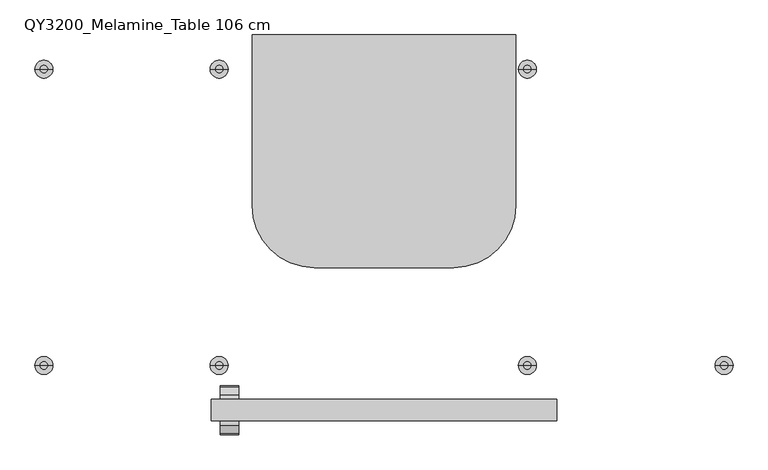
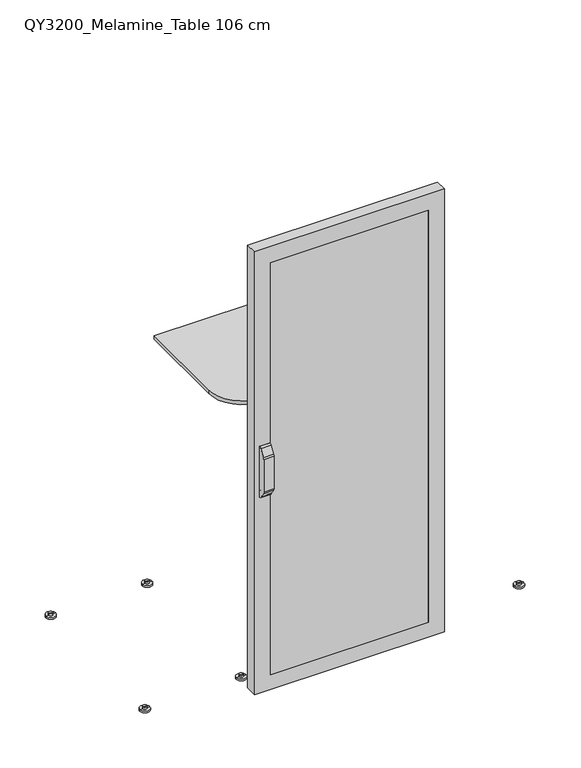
"""IFC4 building model written with IfcOpenShell, lengths in millimetres: furniture geometry, Qyos_200 : QY3200_Melamine_Table 106 cm."""

from ifc_helpers import new_model, si_unit, point, frame, frame_2d, origin, origin_with_axes, place, context, project, spatial, polyline, circle_curve, ellipse_curve, trimmed, segment, composite_curve, outline, extrude, source, transform, mapped, element, save
from ifc_brep_helpers import plane_surface, cylinder_surface, revolved_surface, advanced_brep


def qy3200_melamine_table_106_cm_6ddf6d1d(model_context):
    return source(origin(), model_context, "Body", "SolidModel", [
        advanced_brep(
        [(-374.0364764, -525.6314016, 980.9779398), (-374.0364764, -525.6314016, 985.9647191), (-374.0364764, -537.9469969, 991.7354618), (-374.0364764, -555.0438473, 1019.0961419), (-374.0364764, -557.6320377, 1028.7554001), (-374.0364764, -557.6320377, 1173.7554001), (-374.0364764, -553.2020658, 1196.5456299), (-374.0364764, -536.4262787, 1221.4167571), (-374.0364764, -525.6314016, 1224.0702851), (-374.0364764, -525.6314016, 1230.9669096), (-374.0364764, -537.162848, 1226.3079029), (-374.0364764, -557.7819627, 1194.5572505), (-374.0364764, -560.5, 1186.1919919), (-374.0364764, -560.5, 1025.2), (-374.0364764, -557.5610872, 1017.1254034), (-374.0364764, -537.1968679, 985.7672556), (-421.9843341, -525.6314016, 1230.9669096), (-421.9843341, -525.6314016, 980.9779398), (-421.9843341, -537.1968679, 985.7672556), (-421.9843341, -557.5610872, 1017.1254034), (-421.9843341, -560.5, 1025.2), (-421.9843341, -560.5, 1186.1919919), (-421.9843341, -557.7819627, 1194.5572505), (-421.9843341, -537.162848, 1226.3079029), (-419.3150587, -525.6314016, 1224.0702851), (-419.3150587, -525.6314016, 985.9647191), (-419.3150587, -537.9469969, 991.7354618), (-419.3150587, -536.4262787, 1221.4167571), (-419.3150587, -553.2020658, 1196.5456299), (-419.3150587, -557.6320377, 1173.7554001), (-419.3150587, -557.6320377, 1028.7554001), (-419.3150587, -555.0438473, 1019.0961419)],
        [
            (0, 1),
            (1, 2, circle_curve(frame((-374.0364764, -525.4805644, 1002.3136249), z_axis=(-1.0, 0.0, 0.0), x_axis=(0.0, -1.0, 0.0)), 16.3496016)),
            (2, 3, circle_curve(frame((-374.0364764, 1120.4570487, 2047.0433119), z_axis=(-1.0, 0.0, 0.0), x_axis=(0.0, -1.0, 0.0)), 1965.7005461)),
            (3, 4, circle_curve(frame((-374.0364764, -540.0644692, 1028.286235), z_axis=(-1.0, 0.0, 0.0), x_axis=(0.0, -1.0, 0.0)), 17.5738323)),
            (4, 5),
            (5, 6, circle_curve(frame((-374.0364764, -496.7942676, 1173.7554001), z_axis=(-1.0, 0.0, 0.0), x_axis=(0.0, -1.0, 0.0)), 60.8377701)),
            (6, 7, circle_curve(frame((-374.0364764, -812.3576761, 1389.4415655), z_axis=(1.0, 0.0, 0.0), x_axis=(0.0, -1.0, 0.0)), 323.0641922)),
            (7, 8, circle_curve(frame((-374.0364764, -525.6314016, 1200.7860796), z_axis=(-1.0, 0.0, 0.0), x_axis=(0.0, -1.0, 0.0)), 23.2842055)),
            (8, 9),
            (9, 10, circle_curve(frame((-374.0364764, -527.4087289, 1218.7657801), z_axis=(1.0, 0.0, 0.0), x_axis=(0.0, -1.0, 0.0)), 12.3299009)),
            (10, 11, circle_curve(frame((-374.0364764, 71.0762231, 808.7424006), z_axis=(1.0, 0.0, 0.0), x_axis=(0.0, -1.0, 0.0)), 737.777552)),
            (11, 12, circle_curve(frame((-374.0364764, -541.7589098, 1184.7268438), z_axis=(1.0, 0.0, 0.0), x_axis=(0.0, -1.0, 0.0)), 18.7982744)),
            (12, 13),
            (13, 14, circle_curve(frame((-374.0364764, -513.525418, 1037.7252129), z_axis=(1.0, 0.0, 0.0), x_axis=(0.0, -1.0, 0.0)), 48.615762)),
            (14, 15, circle_curve(frame((-374.0364764, -160.5394908, 1252.6628295), z_axis=(1.0, 0.0, 0.0), x_axis=(0.0, -1.0, 0.0)), 461.6319174)),
            (15, 0, circle_curve(frame((-374.0364764, -527.6091735, 992.560998), z_axis=(1.0, 0.0, 0.0), x_axis=(0.0, -1.0, 0.0)), 11.7506945)),
            (16, 17),
            (17, 18, circle_curve(frame((-421.9843341, -527.6091735, 992.560998), z_axis=(-1.0, 0.0, 0.0), x_axis=(0.0, -1.0, 0.0)), 11.7506945)),
            (18, 19, circle_curve(frame((-421.9843341, -160.5394908, 1252.6628295), z_axis=(-1.0, 0.0, 0.0), x_axis=(0.0, -1.0, 0.0)), 461.6319174)),
            (19, 20, circle_curve(frame((-421.9843341, -513.525418, 1037.7252129), z_axis=(-1.0, 0.0, 0.0), x_axis=(0.0, -1.0, 0.0)), 48.615762)),
            (20, 21),
            (21, 22, circle_curve(frame((-421.9843341, -541.7589098, 1184.7268438), z_axis=(-1.0, 0.0, 0.0), x_axis=(0.0, -1.0, 0.0)), 18.7982744)),
            (22, 23, circle_curve(frame((-421.9843341, 71.0762231, 808.7424006), z_axis=(-1.0, 0.0, 0.0), x_axis=(0.0, -1.0, 0.0)), 737.777552)),
            (23, 16, circle_curve(frame((-421.9843341, -527.4087289, 1218.7657801), z_axis=(-1.0, 0.0, 0.0), x_axis=(0.0, -1.0, 0.0)), 12.3299009)),
            (16, 9),
            (8, 24),
            (24, 25),
            (25, 1),
            (0, 17),
            (15, 18),
            (14, 19),
            (13, 20),
            (12, 21),
            (11, 22),
            (10, 23),
            (26, 25, circle_curve(frame((-419.3150587, -525.4805644, 1002.3136249), z_axis=(1.0, 0.0, 0.0), x_axis=(0.0, -1.0, 0.0)), 16.3496016)),
            (24, 27, circle_curve(frame((-419.3150587, -525.6314016, 1200.7860796), z_axis=(1.0, 0.0, 0.0), x_axis=(0.0, -1.0, 0.0)), 23.2842055)),
            (27, 28, circle_curve(frame((-419.3150587, -812.3576761, 1389.4415655), z_axis=(-1.0, 0.0, 0.0), x_axis=(0.0, -1.0, 0.0)), 323.0641922)),
            (28, 29, circle_curve(frame((-419.3150587, -496.7942676, 1173.7554001), z_axis=(1.0, 0.0, 0.0), x_axis=(0.0, -1.0, 0.0)), 60.8377701)),
            (29, 30),
            (30, 31, circle_curve(frame((-419.3150587, -540.0644692, 1028.286235), z_axis=(1.0, 0.0, 0.0), x_axis=(0.0, -1.0, 0.0)), 17.5738323)),
            (31, 26, circle_curve(frame((-419.3150587, 1120.4570487, 2047.0433119), z_axis=(1.0, 0.0, 0.0), x_axis=(0.0, -1.0, 0.0)), 1965.7005461)),
            (26, 2),
            (31, 3),
            (30, 4),
            (29, 5),
            (28, 6),
            (27, 7),
        ],
        [
            plane_surface(frame((-374.0364764, -525.6314016, 980.9779398), z_axis=(1.0, 0.0, 0.0), x_axis=(0.0, 0.0, -1.0))),
            plane_surface(frame((-421.9843341, -525.6314016, 980.9779398), z_axis=(-1.0, 0.0, 0.0), x_axis=(0.0, 0.0, 1.0))),
            plane_surface(frame((-374.0364764, -525.6314016, 1230.9669096), z_axis=(0.0, 1.0, 0.0), x_axis=(-1.0, 0.0, 0.0))),
            cylinder_surface(frame((-421.9843341, -527.6091735, 992.560998), z_axis=(1.0, 0.0, 0.0), x_axis=(0.0, -1.0, 0.0)), 11.7506945),
            cylinder_surface(frame((-421.9843341, -160.5394908, 1252.6628295), z_axis=(1.0, 0.0, 0.0), x_axis=(0.0, -1.0, 0.0)), 461.6319174),
            cylinder_surface(frame((-421.9843341, -513.525418, 1037.7252129), z_axis=(1.0, 0.0, 0.0), x_axis=(0.0, -1.0, 0.0)), 48.615762),
            plane_surface(frame((-374.0364764, -560.5, 1025.2), z_axis=(0.0, -1.0, 0.0), x_axis=(-1.0, 0.0, 0.0))),
            cylinder_surface(frame((-421.9843341, -541.7589098, 1184.7268438), z_axis=(1.0, 0.0, 0.0), x_axis=(0.0, -1.0, 0.0)), 18.7982744),
            cylinder_surface(frame((-421.9843341, 71.0762231, 808.7424006), z_axis=(1.0, 0.0, 0.0), x_axis=(0.0, -1.0, 0.0)), 737.777552),
            cylinder_surface(frame((-421.9843341, -527.4087289, 1218.7657801), z_axis=(1.0, 0.0, 0.0), x_axis=(0.0, -1.0, 0.0)), 12.3299009),
            plane_surface(frame((-419.3150587, -511.7185794, 1224.0702851), z_axis=(1.0, 0.0, 0.0), x_axis=(0.0, 0.0, 1.0))),
            revolved_surface(polyline([(-374.0364764, -541.8301660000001, 1002.3136249), (-419.3150587, -541.8301660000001, 1002.3136249)]), (-419.3150587, -525.4805644, 1002.3136249), (1.0, 0.0, 0.0)),
            revolved_surface(polyline([(-374.0364764, -845.2434974, 2047.0433119), (-419.3150587, -845.2434974, 2047.0433119)]), (-419.3150587, 1120.4570487, 2047.0433119), (1.0, 0.0, 0.0)),
            revolved_surface(polyline([(-374.0364764, -557.6383015, 1028.286235), (-419.3150587, -557.6383015, 1028.286235)]), (-419.3150587, -540.0644692, 1028.286235), (1.0, 0.0, 0.0)),
            plane_surface(frame((-366.8304474, -557.6320377, 1028.7554001), z_axis=(0.0, 1.0, 0.0), x_axis=(-1.0, 0.0, 0.0))),
            revolved_surface(polyline([(-374.0364764, -557.6320377, 1173.7554001), (-419.3150587, -557.6320377, 1173.7554001)]), (-419.3150587, -496.7942676, 1173.7554001), (1.0, 0.0, 0.0)),
            cylinder_surface(frame((-419.3150587, -812.3576761, 1389.4415655), z_axis=(-1.0, 0.0, 0.0), x_axis=(0.0, -1.0, 0.0)), 323.0641922),
            revolved_surface(polyline([(-374.0364764, -548.9156071, 1200.7860796), (-419.3150587, -548.9156071, 1200.7860796)]), (-419.3150587, -525.6314016, 1200.7860796), (1.0, 0.0, 0.0)),
        ],
        [
            (0, [[1, 2, 3, 4, 5, 6, 7, 8, 9, 10, 11, 12, 13, 14, 15, 16]]),
            (1, [[17, 18, 19, 20, 21, 22, 23, 24]]),
            (2, [[25, -9, 26, 27, 28, -1, 29, -17]]),
            (3, [[30, -18, -29, -16]]),
            (4, [[31, -19, -30, -15]]),
            (5, [[32, -20, -31, -14]]),
            (6, [[33, -21, -32, -13]]),
            (7, [[34, -22, -33, -12]]),
            (8, [[35, -23, -34, -11]]),
            (9, [[-25, -24, -35, -10]]),
            (10, [[36, -27, 37, 38, 39, 40, 41, 42]]),
            (11, [[43, -2, -28, -36]]),
            (12, [[44, -3, -43, -42]]),
            (13, [[45, -4, -44, -41]]),
            (14, [[46, -5, -45, -40]]),
            (15, [[47, -6, -46, -39]]),
            (16, [[48, -7, -47, -38]]),
            (17, [[-26, -8, -48, -37]]),
        ],
    ),
        extrude(outline(composite_curve([segment(polyline([(1230.9669096, -377.0367526), (1230.9669096, -417.0000396)]), True, "CONTINUOUS"), segment(trimmed(circle_curve(frame_2d((1225.973762, -417.0000396)), 4.9931477), [point((1230.9669096, -417.0000396))], [point((1225.973762, -421.9931872))], False, "CARTESIAN"), True, "CONTINUOUS"), segment(polyline([(1225.973762, -421.9931872), (985.9710874, -421.9931872)]), True, "CONTINUOUS"), segment(trimmed(circle_curve(frame_2d((985.9710874, -417.0000396)), 4.9931477), [point((985.9710874, -421.9931872))], [point((980.9779398, -417.0000396))], False, "CARTESIAN"), True, "CONTINUOUS"), segment(polyline([(980.9779398, -417.0000396), (980.9779398, -377.0345582)]), True, "CONTINUOUS"), segment(trimmed(circle_curve(frame_2d((983.9760215, -377.0345582)), 2.9980817), [point((980.9779398, -377.0345582))], [point((983.9760215, -374.0364764))], False, "CARTESIAN"), True, "CONTINUOUS"), segment(polyline([(983.9760215, -374.0364764), (985.9777208, -374.0364764)]), True, "CONTINUOUS"), segment(trimmed(circle_curve(frame_2d((985.9777208, -376.2870695)), 2.2505931), [point((985.9777208, -374.0364764))], [point((988.1941223, -375.8962581))], False, "CARTESIAN"), True, "CONTINUOUS"), segment(trimmed(circle_curve(frame_2d((1002.686839, -375.0916302)), 14.5150358), [point((988.1941223, -375.8962581))], [point((999.6402401, -389.2833354))], True, "CARTESIAN"), True, "CONTINUOUS"), segment(trimmed(circle_curve(frame_2d((999.3564071, -397.3026122)), 8.0242982), [point((999.6402401, -389.2833354))], [point((1007.3803501, -397.3781043))], False, "CARTESIAN"), True, "CONTINUOUS"), segment(trimmed(circle_curve(frame_2d((984.8527266, -400.9146638)), 22.803532), [point((1007.3803501, -397.3781043))], [point((1007.3098217, -404.8744555))], False, "CARTESIAN"), True, "CONTINUOUS"), segment(trimmed(circle_curve(frame_2d((1018.7344643, -406.8889283)), 11.600886), [point((1007.3098217, -404.8744555))], [point((1018.7344643, -418.4898143))], True, "CARTESIAN"), True, "CONTINUOUS"), segment(polyline([(1018.7344643, -418.4898143), (1193.2103851, -418.4898143)]), True, "CONTINUOUS"), segment(trimmed(circle_curve(frame_2d((1193.2103851, -406.5228547)), 11.9669596), [point((1193.2103851, -418.4898143))], [point((1205.1773447, -406.5228547))], True, "CARTESIAN"), True, "CONTINUOUS"), segment(polyline([(1205.1773447, -406.5228547), (1205.1773447, -397.9909498)]), True, "CONTINUOUS"), segment(trimmed(circle_curve(frame_2d((1213.8757406, -397.9909498)), 8.6983958), [point((1205.1773447, -397.9909498))], [point((1212.36528, -389.4247021))], False, "CARTESIAN"), True, "CONTINUOUS"), segment(trimmed(circle_curve(frame_2d((1209.9037954, -375.4649293)), 14.1751248), [point((1212.36528, -389.4247021))], [point((1224.0702851, -375.959634))], True, "CARTESIAN"), True, "CONTINUOUS"), segment(trimmed(circle_curve(frame_2d((1225.9934427, -375.959634)), 1.9231576), [point((1224.0702851, -375.959634))], [point((1225.9934427, -374.0364764))], False, "CARTESIAN"), True, "CONTINUOUS"), segment(polyline([(1225.9934427, -374.0364764), (1227.9666334, -374.0364764)]), True, "CONTINUOUS"), segment(trimmed(circle_curve(frame_2d((1227.9666334, -377.0367526)), 3.0002762), [point((1227.9666334, -374.0364764))], [point((1230.9669096, -377.0367526))], False, "CARTESIAN"), True, "CONTINUOUS")], self_intersect=False)), frame((0.0, -525.6314016, 0.0), z_axis=(0.0, 1.0, 0.0), x_axis=(0.0, 0.0, 1.0)), (0.0, 0.0, 1.0), 0.6314016),
        advanced_brep(
        [(-374.0364764, -469.3642803, 980.9779398), (-374.0364764, -457.798814, 985.7672556), (-374.0364764, -437.4345947, 1017.1254034), (-374.0364764, -434.4956819, 1025.2), (-374.0364764, -434.4956819, 1186.1919919), (-374.0364764, -437.2137192, 1194.5572505), (-374.0364764, -457.8328339, 1226.3079029), (-374.0364764, -469.3642803, 1230.9669096), (-374.0364764, -469.3642803, 1224.0702851), (-374.0364764, -458.5694032, 1221.4167571), (-374.0364764, -441.7936161, 1196.5456299), (-374.0364764, -437.3636441, 1173.7554001), (-374.0364764, -437.3636441, 1028.7554001), (-374.0364764, -439.9518346, 1019.0961419), (-374.0364764, -457.048685, 991.7354618), (-374.0364764, -469.3642803, 985.9647191), (-421.9843341, -469.3642803, 1230.9669096), (-421.9843341, -457.8328339, 1226.3079029), (-421.9843341, -437.2137192, 1194.5572505), (-421.9843341, -434.4956819, 1186.1919919), (-421.9843341, -434.4956819, 1025.2), (-421.9843341, -437.4345947, 1017.1254034), (-421.9843341, -457.798814, 985.7672556), (-421.9843341, -469.3642803, 980.9779398), (-419.3150587, -469.3642803, 985.9647191), (-419.3150587, -469.3642803, 1224.0702851), (-419.3150587, -457.048685, 991.7354618), (-419.3150587, -439.9518346, 1019.0961419), (-419.3150587, -437.3636441, 1028.7554001), (-419.3150587, -437.3636441, 1173.7554001), (-419.3150587, -441.7936161, 1196.5456299), (-419.3150587, -458.5694032, 1221.4167571)],
        [
            (0, 1, circle_curve(frame((-374.0364764, -467.3865084, 992.560998), z_axis=(1.0, 0.0, 0.0), x_axis=(0.0, 1.0, 0.0)), 11.7506945)),
            (1, 2, circle_curve(frame((-374.0364764, -834.4561911, 1252.6628295), z_axis=(1.0, 0.0, 0.0), x_axis=(0.0, 1.0, 0.0)), 461.6319174)),
            (2, 3, circle_curve(frame((-374.0364764, -481.4702639, 1037.7252129), z_axis=(1.0, 0.0, 0.0), x_axis=(0.0, 1.0, 0.0)), 48.615762)),
            (3, 4),
            (4, 5, circle_curve(frame((-374.0364764, -453.236772, 1184.7268438), z_axis=(1.0, 0.0, 0.0), x_axis=(0.0, 1.0, 0.0)), 18.7982744)),
            (5, 6, circle_curve(frame((-374.0364764, -1066.071905, 808.7424006), z_axis=(1.0, 0.0, 0.0), x_axis=(0.0, 1.0, 0.0)), 737.777552)),
            (6, 7, circle_curve(frame((-374.0364764, -467.586953, 1218.7657801), z_axis=(1.0, 0.0, 0.0), x_axis=(0.0, 1.0, 0.0)), 12.3299009)),
            (7, 8),
            (8, 9, circle_curve(frame((-374.0364764, -469.3642803, 1200.7860796), z_axis=(-1.0, 0.0, 0.0), x_axis=(0.0, 1.0, 0.0)), 23.2842055)),
            (9, 10, circle_curve(frame((-374.0364764, -182.6380058, 1389.4415655), z_axis=(1.0, 0.0, 0.0), x_axis=(0.0, 1.0, 0.0)), 323.0641922)),
            (10, 11, circle_curve(frame((-374.0364764, -498.2014142, 1173.7554001), z_axis=(-1.0, 0.0, 0.0), x_axis=(0.0, 1.0, 0.0)), 60.8377701)),
            (11, 12),
            (12, 13, circle_curve(frame((-374.0364764, -454.9312127, 1028.286235), z_axis=(-1.0, 0.0, 0.0), x_axis=(0.0, 1.0, 0.0)), 17.5738323)),
            (13, 14, circle_curve(frame((-374.0364764, -2115.4527306, 2047.0433119), z_axis=(-1.0, 0.0, 0.0), x_axis=(0.0, 1.0, 0.0)), 1965.7005461)),
            (14, 15, circle_curve(frame((-374.0364764, -469.5151175, 1002.3136249), z_axis=(-1.0, 0.0, 0.0), x_axis=(0.0, 1.0, 0.0)), 16.3496016)),
            (15, 0),
            (16, 17, circle_curve(frame((-421.9843341, -467.586953, 1218.7657801), z_axis=(-1.0, 0.0, 0.0), x_axis=(0.0, 1.0, 0.0)), 12.3299009)),
            (17, 18, circle_curve(frame((-421.9843341, -1066.071905, 808.7424006), z_axis=(-1.0, 0.0, 0.0), x_axis=(0.0, 1.0, 0.0)), 737.777552)),
            (18, 19, circle_curve(frame((-421.9843341, -453.236772, 1184.7268438), z_axis=(-1.0, 0.0, 0.0), x_axis=(0.0, 1.0, 0.0)), 18.7982744)),
            (19, 20),
            (20, 21, circle_curve(frame((-421.9843341, -481.4702639, 1037.7252129), z_axis=(-1.0, 0.0, 0.0), x_axis=(0.0, 1.0, 0.0)), 48.615762)),
            (21, 22, circle_curve(frame((-421.9843341, -834.4561911, 1252.6628295), z_axis=(-1.0, 0.0, 0.0), x_axis=(0.0, 1.0, 0.0)), 461.6319174)),
            (22, 23, circle_curve(frame((-421.9843341, -467.3865084, 992.560998), z_axis=(-1.0, 0.0, 0.0), x_axis=(0.0, 1.0, 0.0)), 11.7506945)),
            (23, 16),
            (23, 0),
            (15, 24),
            (24, 25),
            (25, 8),
            (7, 16),
            (22, 1),
            (21, 2),
            (20, 3),
            (19, 4),
            (18, 5),
            (17, 6),
            (26, 27, circle_curve(frame((-419.3150587, -2115.4527306, 2047.0433119), z_axis=(1.0, 0.0, 0.0), x_axis=(0.0, 1.0, 0.0)), 1965.7005461)),
            (27, 28, circle_curve(frame((-419.3150587, -454.9312127, 1028.286235), z_axis=(1.0, 0.0, 0.0), x_axis=(0.0, 1.0, 0.0)), 17.5738323)),
            (28, 29),
            (29, 30, circle_curve(frame((-419.3150587, -498.2014142, 1173.7554001), z_axis=(1.0, 0.0, 0.0), x_axis=(0.0, 1.0, 0.0)), 60.8377701)),
            (30, 31, circle_curve(frame((-419.3150587, -182.6380058, 1389.4415655), z_axis=(-1.0, 0.0, 0.0), x_axis=(0.0, 1.0, 0.0)), 323.0641922)),
            (31, 25, circle_curve(frame((-419.3150587, -469.3642803, 1200.7860796), z_axis=(1.0, 0.0, 0.0), x_axis=(0.0, 1.0, 0.0)), 23.2842055)),
            (24, 26, circle_curve(frame((-419.3150587, -469.5151175, 1002.3136249), z_axis=(1.0, 0.0, 0.0), x_axis=(0.0, 1.0, 0.0)), 16.3496016)),
            (14, 26),
            (13, 27),
            (12, 28),
            (11, 29),
            (10, 30),
            (9, 31),
        ],
        [
            plane_surface(frame((-374.0364764, -469.3642803, 980.9779398), z_axis=(1.0, 0.0, 0.0), x_axis=(0.0, 0.0, -1.0))),
            plane_surface(frame((-421.9843341, -469.3642803, 980.9779398), z_axis=(-1.0, 0.0, 0.0), x_axis=(0.0, 0.0, 1.0))),
            plane_surface(frame((-374.0364764, -469.3642803, 1230.9669096), z_axis=(0.0, -1.0, 0.0), x_axis=(-1.0, 0.0, 0.0))),
            cylinder_surface(frame((-421.9843341, -467.3865084, 992.560998), z_axis=(1.0, 0.0, 0.0), x_axis=(0.0, 1.0, 0.0)), 11.7506945),
            cylinder_surface(frame((-421.9843341, -834.4561911, 1252.6628295), z_axis=(1.0, 0.0, 0.0), x_axis=(0.0, 1.0, 0.0)), 461.6319174),
            cylinder_surface(frame((-421.9843341, -481.4702639, 1037.7252129), z_axis=(1.0, 0.0, 0.0), x_axis=(0.0, 1.0, 0.0)), 48.615762),
            plane_surface(frame((-374.0364764, -434.4956819, 1025.2), z_axis=(0.0, 1.0, 0.0), x_axis=(-1.0, 0.0, 0.0))),
            cylinder_surface(frame((-421.9843341, -453.236772, 1184.7268438), z_axis=(1.0, 0.0, 0.0), x_axis=(0.0, 1.0, 0.0)), 18.7982744),
            cylinder_surface(frame((-421.9843341, -1066.071905, 808.7424006), z_axis=(1.0, 0.0, 0.0), x_axis=(0.0, 1.0, 0.0)), 737.777552),
            cylinder_surface(frame((-421.9843341, -467.586953, 1218.7657801), z_axis=(1.0, 0.0, 0.0), x_axis=(0.0, 1.0, 0.0)), 12.3299009),
            plane_surface(frame((-419.3150587, -483.2771024, 1224.0702851), z_axis=(1.0, 0.0, 0.0), x_axis=(0.0, 0.0, 1.0))),
            revolved_surface(polyline([(-374.0364764, -453.16551589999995, 1002.3136249), (-419.3150587, -453.16551589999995, 1002.3136249)]), (-419.3150587, -469.5151175, 1002.3136249), (1.0, 0.0, 0.0)),
            revolved_surface(polyline([(-374.0364764, -149.75218449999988, 2047.0433119), (-419.3150587, -149.75218449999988, 2047.0433119)]), (-419.3150587, -2115.4527306, 2047.0433119), (1.0, 0.0, 0.0)),
            revolved_surface(polyline([(-374.0364764, -437.3573804, 1028.286235), (-419.3150587, -437.3573804, 1028.286235)]), (-419.3150587, -454.9312127, 1028.286235), (1.0, 0.0, 0.0)),
            plane_surface(frame((-366.8304474, -437.3636441, 1028.7554001), z_axis=(0.0, -1.0, 0.0), x_axis=(-1.0, 0.0, 0.0))),
            revolved_surface(polyline([(-374.0364764, -437.3636441, 1173.7554001), (-419.3150587, -437.3636441, 1173.7554001)]), (-419.3150587, -498.2014142, 1173.7554001), (1.0, 0.0, 0.0)),
            cylinder_surface(frame((-419.3150587, -182.6380058, 1389.4415655), z_axis=(-1.0, 0.0, 0.0), x_axis=(0.0, 1.0, 0.0)), 323.0641922),
            revolved_surface(polyline([(-374.0364764, -446.08007480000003, 1200.7860796), (-419.3150587, -446.08007480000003, 1200.7860796)]), (-419.3150587, -469.3642803, 1200.7860796), (1.0, 0.0, 0.0)),
        ],
        [
            (0, [[1, 2, 3, 4, 5, 6, 7, 8, 9, 10, 11, 12, 13, 14, 15, 16]]),
            (1, [[17, 18, 19, 20, 21, 22, 23, 24]]),
            (2, [[-24, 25, -16, 26, 27, 28, -8, 29]]),
            (3, [[-1, -25, -23, 30]]),
            (4, [[-2, -30, -22, 31]]),
            (5, [[-3, -31, -21, 32]]),
            (6, [[-4, -32, -20, 33]]),
            (7, [[-5, -33, -19, 34]]),
            (8, [[-6, -34, -18, 35]]),
            (9, [[-7, -35, -17, -29]]),
            (10, [[36, 37, 38, 39, 40, 41, -27, 42]]),
            (11, [[-42, -26, -15, 43]]),
            (12, [[-36, -43, -14, 44]]),
            (13, [[-37, -44, -13, 45]]),
            (14, [[-38, -45, -12, 46]]),
            (15, [[-39, -46, -11, 47]]),
            (16, [[-40, -47, -10, 48]]),
            (17, [[-41, -48, -9, -28]]),
        ],
    ),
        extrude(outline(composite_curve([segment(polyline([(1230.9669096, -377.0367526), (1230.9669096, -417.0000396)]), True, "CONTINUOUS"), segment(trimmed(circle_curve(frame_2d((1225.973762, -417.0000396)), 4.9931477), [point((1230.9669096, -417.0000396))], [point((1225.973762, -421.9931872))], False, "CARTESIAN"), True, "CONTINUOUS"), segment(polyline([(1225.973762, -421.9931872), (985.9710874, -421.9931872)]), True, "CONTINUOUS"), segment(trimmed(circle_curve(frame_2d((985.9710874, -417.0000396)), 4.9931477), [point((985.9710874, -421.9931872))], [point((980.9779398, -417.0000396))], False, "CARTESIAN"), True, "CONTINUOUS"), segment(polyline([(980.9779398, -417.0000396), (980.9779398, -377.0345582)]), True, "CONTINUOUS"), segment(trimmed(circle_curve(frame_2d((983.9760215, -377.0345582)), 2.9980817), [point((980.9779398, -377.0345582))], [point((983.9760215, -374.0364764))], False, "CARTESIAN"), True, "CONTINUOUS"), segment(polyline([(983.9760215, -374.0364764), (985.9777208, -374.0364764)]), True, "CONTINUOUS"), segment(trimmed(circle_curve(frame_2d((985.9777208, -376.2870695)), 2.2505931), [point((985.9777208, -374.0364764))], [point((988.1941223, -375.8962581))], False, "CARTESIAN"), True, "CONTINUOUS"), segment(trimmed(circle_curve(frame_2d((1002.686839, -375.0916302)), 14.5150358), [point((988.1941223, -375.8962581))], [point((999.6402401, -389.2833354))], True, "CARTESIAN"), True, "CONTINUOUS"), segment(trimmed(circle_curve(frame_2d((999.3564071, -397.3026122)), 8.0242982), [point((999.6402401, -389.2833354))], [point((1007.3803501, -397.3781043))], False, "CARTESIAN"), True, "CONTINUOUS"), segment(trimmed(circle_curve(frame_2d((984.8527266, -400.9146638)), 22.803532), [point((1007.3803501, -397.3781043))], [point((1007.3098217, -404.8744555))], False, "CARTESIAN"), True, "CONTINUOUS"), segment(trimmed(circle_curve(frame_2d((1018.7344643, -406.8889283)), 11.600886), [point((1007.3098217, -404.8744555))], [point((1018.7344643, -418.4898143))], True, "CARTESIAN"), True, "CONTINUOUS"), segment(polyline([(1018.7344643, -418.4898143), (1193.2103851, -418.4898143)]), True, "CONTINUOUS"), segment(trimmed(circle_curve(frame_2d((1193.2103851, -406.5228547)), 11.9669596), [point((1193.2103851, -418.4898143))], [point((1205.1773447, -406.5228547))], True, "CARTESIAN"), True, "CONTINUOUS"), segment(polyline([(1205.1773447, -406.5228547), (1205.1773447, -397.9909498)]), True, "CONTINUOUS"), segment(trimmed(circle_curve(frame_2d((1213.8757406, -397.9909498)), 8.6983958), [point((1205.1773447, -397.9909498))], [point((1212.36528, -389.4247021))], False, "CARTESIAN"), True, "CONTINUOUS"), segment(trimmed(circle_curve(frame_2d((1209.9037954, -375.4649293)), 14.1751248), [point((1212.36528, -389.4247021))], [point((1224.0702851, -375.959634))], True, "CARTESIAN"), True, "CONTINUOUS"), segment(trimmed(circle_curve(frame_2d((1225.9934427, -375.959634)), 1.9231576), [point((1224.0702851, -375.959634))], [point((1225.9934427, -374.0364764))], False, "CARTESIAN"), True, "CONTINUOUS"), segment(polyline([(1225.9934427, -374.0364764), (1227.9666334, -374.0364764)]), True, "CONTINUOUS"), segment(trimmed(circle_curve(frame_2d((1227.9666334, -377.0367526)), 3.0002762), [point((1227.9666334, -374.0364764))], [point((1230.9669096, -377.0367526))], False, "CARTESIAN"), True, "CONTINUOUS")], self_intersect=False)), frame((0.0, -469.9956819, 0.0), z_axis=(0.0, 1.0, 0.0), x_axis=(0.0, 0.0, 1.0)), (0.0, 0.0, 1.0), 0.6314016),
        extrude(outline(polyline([(369.5486306, -525.0), (-369.4513694, -525.0), (-369.4513694, -520.0), (369.5486306, -520.0), (369.5486306, -525.0)])), frame((0.0, 0.0, 82.0), z_axis=(0.0, 0.0, 1.0), x_axis=(1.0, 0.0, 0.0)), (0.0, 0.0, 1.0), 2040.1),
        extrude(outline(polyline([(10.0, -444.9513694), (10.0, 445.0486306), (2202.1, 445.0486306), (2202.1, -444.9513694), (10.0, -444.9513694)]), holes=[polyline([(82.0, 369.5486306), (82.0, -369.4513694), (2122.1, -369.4513694), (2122.1, 369.5486306), (82.0, 369.5486306)])]), frame((0.0, -525.0, 0.0), z_axis=(0.0, 1.0, 0.0), x_axis=(0.0, 0.0, 1.0)), (0.0, 0.0, 1.0), 55.0043181),
        advanced_brep(
        [(-18.7621631, 170.0, 82.0), (18.7621631, 170.0, 82.0), (0.0, 170.0, 82.0), (-22.480604, 170.0, 85.7184409), (22.480604, 170.0, 85.7184409), (-22.480604, 170.0, 1128.0), (22.480604, 170.0, 1128.0), (0.0, 170.0, 1128.0)],
        [
            (0, 1, circle_curve(frame((0.0, 170.0, 82.0), z_axis=(0.0, 0.0, -1.0), x_axis=(1.0, 0.0, 0.0)), 18.7621631)),
            (1, 2),
            (2, 0),
            (1, 0, circle_curve(frame((0.0, 170.0, 82.0), z_axis=(0.0, 0.0, -1.0), x_axis=(1.0, 0.0, 0.0)), 18.7621631)),
            (3, 4, circle_curve(frame((0.0, 170.0, 85.7184409), z_axis=(0.0, 0.0, -1.0), x_axis=(1.0, 0.0, 0.0)), 22.480604)),
            (4, 1, circle_curve(frame((16.4330916, 170.0, 88.0475124), z_axis=(0.0, 1.0, 0.0), x_axis=(1.0, 0.0, 0.0)), 6.4805077)),
            (0, 3, circle_curve(frame((-16.4330916, 170.0, 88.0475124), z_axis=(0.0, 1.0, 0.0), x_axis=(-1.0, 0.0, 0.0)), 6.4805077)),
            (4, 3, circle_curve(frame((0.0, 170.0, 85.7184409), z_axis=(0.0, 0.0, -1.0), x_axis=(1.0, 0.0, 0.0)), 22.480604)),
            (5, 6, circle_curve(frame((0.0, 170.0, 1128.0), z_axis=(0.0, 0.0, -1.0), x_axis=(1.0, 0.0, 0.0)), 22.480604)),
            (6, 4),
            (3, 5),
            (6, 5, circle_curve(frame((0.0, 170.0, 1128.0), z_axis=(0.0, 0.0, -1.0), x_axis=(1.0, 0.0, 0.0)), 22.480604)),
            (7, 6),
            (5, 7),
        ],
        [
            plane_surface(frame((0.0, 170.0, 82.0), z_axis=(0.0, 0.0, -1.0), x_axis=(1.0, 0.0, 0.0))),
            revolved_surface(trimmed(ellipse_curve(frame((16.4330916, 170.0, 88.0475124), z_axis=(0.0, -1.0, 0.0), x_axis=(1.0, 0.0, 0.0)), 6.4805077, 6.4805077), [point((18.7621631, 170.0, 82.0))], [point((22.480604, 170.0, 85.7184409))], True, "CARTESIAN"), (0.0, 170.0, 2322.4144888), (0.0, 0.0, 1.0)),
            cylinder_surface(frame((0.0, 170.0, 2322.4144888), z_axis=(0.0, 0.0, 1.0), x_axis=(1.0, 0.0, 0.0)), 22.480604),
            plane_surface(frame((0.0, 170.0, 1128.0), z_axis=(0.0, 0.0, 1.0), x_axis=(1.0, 0.0, 0.0))),
        ],
        [
            (0, [[1, 2, 3]]),
            (0, [[4, -3, -2]]),
            (1, [[5, 6, -1, 7]]),
            (1, [[8, -7, -4, -6]]),
            (2, [[9, 10, -5, 11]]),
            (2, [[12, -11, -8, -10]]),
            (3, [[13, -9, 14]]),
            (3, [[-14, -12, -13]]),
        ],
    ),
        extrude(outline(composite_curve([segment(polyline([(340.0, 470.0), (340.0, 30.0)]), True, "CONTINUOUS"), segment(trimmed(circle_curve(frame_2d((180.0, 30.0)), 160.0), [point((340.0, 30.0))], [point((180.0, -130.0))], False, "CARTESIAN"), True, "CONTINUOUS"), segment(polyline([(180.0, -130.0), (-180.0, -130.0)]), True, "CONTINUOUS"), segment(trimmed(circle_curve(frame_2d((-180.0, 30.0)), 160.0), [point((-180.0, -130.0))], [point((-340.0, 30.0))], False, "CARTESIAN"), True, "CONTINUOUS"), segment(polyline([(-340.0, 30.0), (-340.0, 470.0), (340.0, 470.0)]), True, "CONTINUOUS")], self_intersect=False)), frame((0.0, 0.0, 1128.0), z_axis=(0.0, 0.0, 1.0), x_axis=(1.0, 0.0, 0.0)), (0.0, 0.0, 1.0), 19.0),
        advanced_brep(
        [(346.4071662, -382.0, 0.0), (392.690095, -382.0, 0.0), (369.5486306, -382.0, 0.0), (346.4071662, -382.0, 7.0), (392.690095, -382.0, 7.0), (359.9101752, -382.0, 7.0), (379.187086, -382.0, 7.0), (359.9101752, -382.0, 17.0), (379.187086, -382.0, 17.0), (369.5486306, -382.0, 17.0)],
        [
            (0, 1, circle_curve(frame((369.5486306, -382.0, 0.0), z_axis=(0.0, 0.0, -1.0), x_axis=(1.0, 0.0, 0.0)), 23.1414644)),
            (1, 2),
            (2, 0),
            (1, 0, circle_curve(frame((369.5486306, -382.0, 0.0), z_axis=(0.0, 0.0, -1.0), x_axis=(1.0, 0.0, 0.0)), 23.1414644)),
            (3, 4, circle_curve(frame((369.5486306, -382.0, 7.0), z_axis=(0.0, 0.0, -1.0), x_axis=(1.0, 0.0, 0.0)), 23.1414644)),
            (4, 1),
            (0, 3),
            (4, 3, circle_curve(frame((369.5486306, -382.0, 7.0), z_axis=(0.0, 0.0, -1.0), x_axis=(1.0, 0.0, 0.0)), 23.1414644)),
            (5, 6, circle_curve(frame((369.5486306, -382.0, 7.0), z_axis=(0.0, 0.0, -1.0), x_axis=(1.0, 0.0, 0.0)), 9.6384554)),
            (6, 4),
            (3, 5),
            (6, 5, circle_curve(frame((369.5486306, -382.0, 7.0), z_axis=(0.0, 0.0, -1.0), x_axis=(1.0, 0.0, 0.0)), 9.6384554)),
            (7, 8, circle_curve(frame((369.5486306, -382.0, 17.0), z_axis=(0.0, 0.0, -1.0), x_axis=(1.0, 0.0, 0.0)), 9.6384554)),
            (8, 6),
            (5, 7),
            (8, 7, circle_curve(frame((369.5486306, -382.0, 17.0), z_axis=(0.0, 0.0, -1.0), x_axis=(1.0, 0.0, 0.0)), 9.6384554)),
            (9, 8),
            (7, 9),
        ],
        [
            plane_surface(frame((369.5486306, -382.0, 0.0), z_axis=(0.0, 0.0, -1.0), x_axis=(1.0, 0.0, 0.0))),
            cylinder_surface(frame((369.5486306, -382.0, 1997.4144888), z_axis=(0.0, 0.0, 1.0), x_axis=(1.0, 0.0, 0.0)), 23.1414644),
            plane_surface(frame((369.5486306, -382.0, 7.0), z_axis=(0.0, 0.0, 1.0), x_axis=(1.0, 0.0, 0.0))),
            cylinder_surface(frame((369.5486306, -382.0, 1997.4144888), z_axis=(0.0, 0.0, 1.0), x_axis=(1.0, 0.0, 0.0)), 9.6384554),
            plane_surface(frame((369.5486306, -382.0, 17.0), z_axis=(0.0, 0.0, 1.0), x_axis=(1.0, 0.0, 0.0))),
        ],
        [
            (0, [[1, 2, 3]]),
            (0, [[4, -3, -2]]),
            (1, [[5, 6, -1, 7]]),
            (1, [[8, -7, -4, -6]]),
            (2, [[9, 10, -5, 11]]),
            (2, [[12, -11, -8, -10]]),
            (3, [[13, 14, -9, 15]]),
            (3, [[16, -15, -12, -14]]),
            (4, [[17, -13, 18]]),
            (4, [[-18, -16, -17]]),
        ],
    ),
        extrude(outline(composite_curve([segment(trimmed(circle_curve(frame_2d((369.5486306, -382.0)), 23.1414644), [point((346.4071662, -382.0))], [point((392.690095, -382.0))], False, "CARTESIAN"), True, "CONTINUOUS"), segment(trimmed(circle_curve(frame_2d((369.5486306, -382.0)), 23.1414644), [point((392.690095, -382.0))], [point((346.4071662, -382.0))], False, "CARTESIAN"), True, "CONTINUOUS")], self_intersect=False)), origin_with_axes(), (0.0, 0.0, 1.0), 7.0),
        advanced_brep(
        [(346.4071662, 382.0, 0.0), (392.690095, 382.0, 0.0), (369.5486306, 382.0, 0.0), (346.4071662, 382.0, 7.0), (392.690095, 382.0, 7.0), (359.9101752, 382.0, 7.0), (379.187086, 382.0, 7.0), (359.9101752, 382.0, 17.0), (379.187086, 382.0, 17.0), (369.5486306, 382.0, 17.0)],
        [
            (0, 1, circle_curve(frame((369.5486306, 382.0, 0.0), z_axis=(0.0, 0.0, -1.0), x_axis=(1.0, 0.0, 0.0)), 23.1414644)),
            (1, 2),
            (2, 0),
            (1, 0, circle_curve(frame((369.5486306, 382.0, 0.0), z_axis=(0.0, 0.0, -1.0), x_axis=(1.0, 0.0, 0.0)), 23.1414644)),
            (3, 4, circle_curve(frame((369.5486306, 382.0, 7.0), z_axis=(0.0, 0.0, -1.0), x_axis=(1.0, 0.0, 0.0)), 23.1414644)),
            (4, 1),
            (0, 3),
            (4, 3, circle_curve(frame((369.5486306, 382.0, 7.0), z_axis=(0.0, 0.0, -1.0), x_axis=(1.0, 0.0, 0.0)), 23.1414644)),
            (5, 6, circle_curve(frame((369.5486306, 382.0, 7.0), z_axis=(0.0, 0.0, -1.0), x_axis=(1.0, 0.0, 0.0)), 9.6384554)),
            (6, 4),
            (3, 5),
            (6, 5, circle_curve(frame((369.5486306, 382.0, 7.0), z_axis=(0.0, 0.0, -1.0), x_axis=(1.0, 0.0, 0.0)), 9.6384554)),
            (7, 8, circle_curve(frame((369.5486306, 382.0, 17.0), z_axis=(0.0, 0.0, -1.0), x_axis=(1.0, 0.0, 0.0)), 9.6384554)),
            (8, 6),
            (5, 7),
            (8, 7, circle_curve(frame((369.5486306, 382.0, 17.0), z_axis=(0.0, 0.0, -1.0), x_axis=(1.0, 0.0, 0.0)), 9.6384554)),
            (9, 8),
            (7, 9),
        ],
        [
            plane_surface(frame((369.5486306, 382.0, 0.0), z_axis=(0.0, 0.0, -1.0), x_axis=(1.0, 0.0, 0.0))),
            cylinder_surface(frame((369.5486306, 382.0, 1997.4144888), z_axis=(0.0, 0.0, 1.0), x_axis=(1.0, 0.0, 0.0)), 23.1414644),
            plane_surface(frame((369.5486306, 382.0, 7.0), z_axis=(0.0, 0.0, 1.0), x_axis=(1.0, 0.0, 0.0))),
            cylinder_surface(frame((369.5486306, 382.0, 1997.4144888), z_axis=(0.0, 0.0, 1.0), x_axis=(1.0, 0.0, 0.0)), 9.6384554),
            plane_surface(frame((369.5486306, 382.0, 17.0), z_axis=(0.0, 0.0, 1.0), x_axis=(1.0, 0.0, 0.0))),
        ],
        [
            (0, [[1, 2, 3]]),
            (0, [[4, -3, -2]]),
            (1, [[5, 6, -1, 7]]),
            (1, [[8, -7, -4, -6]]),
            (2, [[9, 10, -5, 11]]),
            (2, [[12, -11, -8, -10]]),
            (3, [[13, 14, -9, 15]]),
            (3, [[16, -15, -12, -14]]),
            (4, [[17, -13, 18]]),
            (4, [[-18, -16, -17]]),
        ],
    ),
        extrude(outline(composite_curve([segment(trimmed(circle_curve(frame_2d((369.5486306, 382.0)), 23.1414644), [point((346.4071662, 382.0))], [point((392.690095, 382.0))], False, "CARTESIAN"), True, "CONTINUOUS"), segment(trimmed(circle_curve(frame_2d((369.5486306, 382.0)), 23.1414644), [point((392.690095, 382.0))], [point((346.4071662, 382.0))], False, "CARTESIAN"), True, "CONTINUOUS")], self_intersect=False)), origin_with_axes(), (0.0, 0.0, 1.0), 7.0),
        advanced_brep(
        [(853.8585356, -382.0, 0.0), (900.1414644, -382.0, 0.0), (877.0, -382.0, 0.0), (853.8585356, -382.0, 7.0), (900.1414644, -382.0, 7.0), (867.3615446, -382.0, 7.0), (886.6384554, -382.0, 7.0), (867.3615446, -382.0, 17.0), (886.6384554, -382.0, 17.0), (877.0, -382.0, 17.0)],
        [
            (0, 1, circle_curve(frame((877.0, -382.0, 0.0), z_axis=(0.0, 0.0, -1.0), x_axis=(1.0, 0.0, 0.0)), 23.1414644)),
            (1, 2),
            (2, 0),
            (1, 0, circle_curve(frame((877.0, -382.0, 0.0), z_axis=(0.0, 0.0, -1.0), x_axis=(1.0, 0.0, 0.0)), 23.1414644)),
            (3, 4, circle_curve(frame((877.0, -382.0, 7.0), z_axis=(0.0, 0.0, -1.0), x_axis=(1.0, 0.0, 0.0)), 23.1414644)),
            (4, 1),
            (0, 3),
            (4, 3, circle_curve(frame((877.0, -382.0, 7.0), z_axis=(0.0, 0.0, -1.0), x_axis=(1.0, 0.0, 0.0)), 23.1414644)),
            (5, 6, circle_curve(frame((877.0, -382.0, 7.0), z_axis=(0.0, 0.0, -1.0), x_axis=(1.0, 0.0, 0.0)), 9.6384554)),
            (6, 4),
            (3, 5),
            (6, 5, circle_curve(frame((877.0, -382.0, 7.0), z_axis=(0.0, 0.0, -1.0), x_axis=(1.0, 0.0, 0.0)), 9.6384554)),
            (7, 8, circle_curve(frame((877.0, -382.0, 17.0), z_axis=(0.0, 0.0, -1.0), x_axis=(1.0, 0.0, 0.0)), 9.6384554)),
            (8, 6),
            (5, 7),
            (8, 7, circle_curve(frame((877.0, -382.0, 17.0), z_axis=(0.0, 0.0, -1.0), x_axis=(1.0, 0.0, 0.0)), 9.6384554)),
            (9, 8),
            (7, 9),
        ],
        [
            plane_surface(frame((877.0, -382.0, 0.0), z_axis=(0.0, 0.0, -1.0), x_axis=(1.0, 0.0, 0.0))),
            cylinder_surface(frame((877.0, -382.0, 1997.4144888), z_axis=(0.0, 0.0, 1.0), x_axis=(1.0, 0.0, 0.0)), 23.1414644),
            plane_surface(frame((877.0, -382.0, 7.0), z_axis=(0.0, 0.0, 1.0), x_axis=(1.0, 0.0, 0.0))),
            cylinder_surface(frame((877.0, -382.0, 1997.4144888), z_axis=(0.0, 0.0, 1.0), x_axis=(1.0, 0.0, 0.0)), 9.6384554),
            plane_surface(frame((877.0, -382.0, 17.0), z_axis=(0.0, 0.0, 1.0), x_axis=(1.0, 0.0, 0.0))),
        ],
        [
            (0, [[1, 2, 3]]),
            (0, [[4, -3, -2]]),
            (1, [[5, 6, -1, 7]]),
            (1, [[8, -7, -4, -6]]),
            (2, [[9, 10, -5, 11]]),
            (2, [[12, -11, -8, -10]]),
            (3, [[13, 14, -9, 15]]),
            (3, [[16, -15, -12, -14]]),
            (4, [[17, -13, 18]]),
            (4, [[-18, -16, -17]]),
        ],
    ),
        extrude(outline(composite_curve([segment(trimmed(circle_curve(frame_2d((877.0, -382.0)), 23.1414644), [point((853.8585356, -382.0))], [point((900.1414644, -382.0))], False, "CARTESIAN"), True, "CONTINUOUS"), segment(trimmed(circle_curve(frame_2d((877.0, -382.0)), 23.1414644), [point((900.1414644, -382.0))], [point((853.8585356, -382.0))], False, "CARTESIAN"), True, "CONTINUOUS")], self_intersect=False)), origin_with_axes(), (0.0, 0.0, 1.0), 7.0),
        advanced_brep(
        [(-448.1414644, -382.0, 0.0), (-401.8585356, -382.0, 0.0), (-425.0, -382.0, 0.0), (-448.1414644, -382.0, 7.0), (-401.8585356, -382.0, 7.0), (-434.6384554, -382.0, 7.0), (-415.3615446, -382.0, 7.0), (-434.6384554, -382.0, 17.0), (-415.3615446, -382.0, 17.0), (-425.0, -382.0, 17.0)],
        [
            (0, 1, circle_curve(frame((-425.0, -382.0, 0.0), z_axis=(0.0, 0.0, -1.0), x_axis=(1.0, 0.0, 0.0)), 23.1414644)),
            (1, 2),
            (2, 0),
            (1, 0, circle_curve(frame((-425.0, -382.0, 0.0), z_axis=(0.0, 0.0, -1.0), x_axis=(1.0, 0.0, 0.0)), 23.1414644)),
            (3, 4, circle_curve(frame((-425.0, -382.0, 7.0), z_axis=(0.0, 0.0, -1.0), x_axis=(1.0, 0.0, 0.0)), 23.1414644)),
            (4, 1),
            (0, 3),
            (4, 3, circle_curve(frame((-425.0, -382.0, 7.0), z_axis=(0.0, 0.0, -1.0), x_axis=(1.0, 0.0, 0.0)), 23.1414644)),
            (5, 6, circle_curve(frame((-425.0, -382.0, 7.0), z_axis=(0.0, 0.0, -1.0), x_axis=(1.0, 0.0, 0.0)), 9.6384554)),
            (6, 4),
            (3, 5),
            (6, 5, circle_curve(frame((-425.0, -382.0, 7.0), z_axis=(0.0, 0.0, -1.0), x_axis=(1.0, 0.0, 0.0)), 9.6384554)),
            (7, 8, circle_curve(frame((-425.0, -382.0, 17.0), z_axis=(0.0, 0.0, -1.0), x_axis=(1.0, 0.0, 0.0)), 9.6384554)),
            (8, 6),
            (5, 7),
            (8, 7, circle_curve(frame((-425.0, -382.0, 17.0), z_axis=(0.0, 0.0, -1.0), x_axis=(1.0, 0.0, 0.0)), 9.6384554)),
            (9, 8),
            (7, 9),
        ],
        [
            plane_surface(frame((-425.0, -382.0, 0.0), z_axis=(0.0, 0.0, -1.0), x_axis=(1.0, 0.0, 0.0))),
            cylinder_surface(frame((-425.0, -382.0, 1997.4144888), z_axis=(0.0, 0.0, 1.0), x_axis=(1.0, 0.0, 0.0)), 23.1414644),
            plane_surface(frame((-425.0, -382.0, 7.0), z_axis=(0.0, 0.0, 1.0), x_axis=(1.0, 0.0, 0.0))),
            cylinder_surface(frame((-425.0, -382.0, 1997.4144888), z_axis=(0.0, 0.0, 1.0), x_axis=(1.0, 0.0, 0.0)), 9.6384554),
            plane_surface(frame((-425.0, -382.0, 17.0), z_axis=(0.0, 0.0, 1.0), x_axis=(1.0, 0.0, 0.0))),
        ],
        [
            (0, [[1, 2, 3]]),
            (0, [[4, -3, -2]]),
            (1, [[5, 6, -1, 7]]),
            (1, [[8, -7, -4, -6]]),
            (2, [[9, 10, -5, 11]]),
            (2, [[12, -11, -8, -10]]),
            (3, [[13, 14, -9, 15]]),
            (3, [[16, -15, -12, -14]]),
            (4, [[17, -13, 18]]),
            (4, [[-18, -16, -17]]),
        ],
    ),
        extrude(outline(composite_curve([segment(trimmed(circle_curve(frame_2d((-425.0, -382.0)), 23.1414644), [point((-448.1414644, -382.0))], [point((-401.8585356, -382.0))], False, "CARTESIAN"), True, "CONTINUOUS"), segment(trimmed(circle_curve(frame_2d((-425.0, -382.0)), 23.1414644), [point((-401.8585356, -382.0))], [point((-448.1414644, -382.0))], False, "CARTESIAN"), True, "CONTINUOUS")], self_intersect=False)), origin_with_axes(), (0.0, 0.0, 1.0), 7.0),
        advanced_brep(
        [(-900.1414644, -382.0, 0.0), (-853.8585356, -382.0, 0.0), (-877.0, -382.0, 0.0), (-900.1414644, -382.0, 7.0), (-853.8585356, -382.0, 7.0), (-886.6384554, -382.0, 7.0), (-867.3615446, -382.0, 7.0), (-886.6384554, -382.0, 17.0), (-867.3615446, -382.0, 17.0), (-877.0, -382.0, 17.0)],
        [
            (0, 1, circle_curve(frame((-877.0, -382.0, 0.0), z_axis=(0.0, 0.0, -1.0), x_axis=(1.0, 0.0, 0.0)), 23.1414644)),
            (1, 2),
            (2, 0),
            (1, 0, circle_curve(frame((-877.0, -382.0, 0.0), z_axis=(0.0, 0.0, -1.0), x_axis=(1.0, 0.0, 0.0)), 23.1414644)),
            (3, 4, circle_curve(frame((-877.0, -382.0, 7.0), z_axis=(0.0, 0.0, -1.0), x_axis=(1.0, 0.0, 0.0)), 23.1414644)),
            (4, 1),
            (0, 3),
            (4, 3, circle_curve(frame((-877.0, -382.0, 7.0), z_axis=(0.0, 0.0, -1.0), x_axis=(1.0, 0.0, 0.0)), 23.1414644)),
            (5, 6, circle_curve(frame((-877.0, -382.0, 7.0), z_axis=(0.0, 0.0, -1.0), x_axis=(1.0, 0.0, 0.0)), 9.6384554)),
            (6, 4),
            (3, 5),
            (6, 5, circle_curve(frame((-877.0, -382.0, 7.0), z_axis=(0.0, 0.0, -1.0), x_axis=(1.0, 0.0, 0.0)), 9.6384554)),
            (7, 8, circle_curve(frame((-877.0, -382.0, 17.0), z_axis=(0.0, 0.0, -1.0), x_axis=(1.0, 0.0, 0.0)), 9.6384554)),
            (8, 6),
            (5, 7),
            (8, 7, circle_curve(frame((-877.0, -382.0, 17.0), z_axis=(0.0, 0.0, -1.0), x_axis=(1.0, 0.0, 0.0)), 9.6384554)),
            (9, 8),
            (7, 9),
        ],
        [
            plane_surface(frame((-877.0, -382.0, 0.0), z_axis=(0.0, 0.0, -1.0), x_axis=(1.0, 0.0, 0.0))),
            cylinder_surface(frame((-877.0, -382.0, 1997.4144888), z_axis=(0.0, 0.0, 1.0), x_axis=(1.0, 0.0, 0.0)), 23.1414644),
            plane_surface(frame((-877.0, -382.0, 7.0), z_axis=(0.0, 0.0, 1.0), x_axis=(1.0, 0.0, 0.0))),
            cylinder_surface(frame((-877.0, -382.0, 1997.4144888), z_axis=(0.0, 0.0, 1.0), x_axis=(1.0, 0.0, 0.0)), 9.6384554),
            plane_surface(frame((-877.0, -382.0, 17.0), z_axis=(0.0, 0.0, 1.0), x_axis=(1.0, 0.0, 0.0))),
        ],
        [
            (0, [[1, 2, 3]]),
            (0, [[4, -3, -2]]),
            (1, [[5, 6, -1, 7]]),
            (1, [[8, -7, -4, -6]]),
            (2, [[9, 10, -5, 11]]),
            (2, [[12, -11, -8, -10]]),
            (3, [[13, 14, -9, 15]]),
            (3, [[16, -15, -12, -14]]),
            (4, [[17, -13, 18]]),
            (4, [[-18, -16, -17]]),
        ],
    ),
        extrude(outline(composite_curve([segment(trimmed(circle_curve(frame_2d((-877.0, -382.0)), 23.1414644), [point((-900.1414644, -382.0))], [point((-853.8585356, -382.0))], False, "CARTESIAN"), True, "CONTINUOUS"), segment(trimmed(circle_curve(frame_2d((-877.0, -382.0)), 23.1414644), [point((-853.8585356, -382.0))], [point((-900.1414644, -382.0))], False, "CARTESIAN"), True, "CONTINUOUS")], self_intersect=False)), origin_with_axes(), (0.0, 0.0, 1.0), 7.0),
        advanced_brep(
        [(-900.1414644, 382.0, 0.0), (-853.8585356, 382.0, 0.0), (-877.0, 382.0, 0.0), (-900.1414644, 382.0, 7.0), (-853.8585356, 382.0, 7.0), (-886.6384554, 382.0, 7.0), (-867.3615446, 382.0, 7.0), (-886.6384554, 382.0, 17.0), (-867.3615446, 382.0, 17.0), (-877.0, 382.0, 17.0)],
        [
            (0, 1, circle_curve(frame((-877.0, 382.0, 0.0), z_axis=(0.0, 0.0, -1.0), x_axis=(1.0, 0.0, 0.0)), 23.1414644)),
            (1, 2),
            (2, 0),
            (1, 0, circle_curve(frame((-877.0, 382.0, 0.0), z_axis=(0.0, 0.0, -1.0), x_axis=(1.0, 0.0, 0.0)), 23.1414644)),
            (3, 4, circle_curve(frame((-877.0, 382.0, 7.0), z_axis=(0.0, 0.0, -1.0), x_axis=(1.0, 0.0, 0.0)), 23.1414644)),
            (4, 1),
            (0, 3),
            (4, 3, circle_curve(frame((-877.0, 382.0, 7.0), z_axis=(0.0, 0.0, -1.0), x_axis=(1.0, 0.0, 0.0)), 23.1414644)),
            (5, 6, circle_curve(frame((-877.0, 382.0, 7.0), z_axis=(0.0, 0.0, -1.0), x_axis=(1.0, 0.0, 0.0)), 9.6384554)),
            (6, 4),
            (3, 5),
            (6, 5, circle_curve(frame((-877.0, 382.0, 7.0), z_axis=(0.0, 0.0, -1.0), x_axis=(1.0, 0.0, 0.0)), 9.6384554)),
            (7, 8, circle_curve(frame((-877.0, 382.0, 17.0), z_axis=(0.0, 0.0, -1.0), x_axis=(1.0, 0.0, 0.0)), 9.6384554)),
            (8, 6),
            (5, 7),
            (8, 7, circle_curve(frame((-877.0, 382.0, 17.0), z_axis=(0.0, 0.0, -1.0), x_axis=(1.0, 0.0, 0.0)), 9.6384554)),
            (9, 8),
            (7, 9),
        ],
        [
            plane_surface(frame((-877.0, 382.0, 0.0), z_axis=(0.0, 0.0, -1.0), x_axis=(1.0, 0.0, 0.0))),
            cylinder_surface(frame((-877.0, 382.0, 1997.4144888), z_axis=(0.0, 0.0, 1.0), x_axis=(1.0, 0.0, 0.0)), 23.1414644),
            plane_surface(frame((-877.0, 382.0, 7.0), z_axis=(0.0, 0.0, 1.0), x_axis=(1.0, 0.0, 0.0))),
            cylinder_surface(frame((-877.0, 382.0, 1997.4144888), z_axis=(0.0, 0.0, 1.0), x_axis=(1.0, 0.0, 0.0)), 9.6384554),
            plane_surface(frame((-877.0, 382.0, 17.0), z_axis=(0.0, 0.0, 1.0), x_axis=(1.0, 0.0, 0.0))),
        ],
        [
            (0, [[1, 2, 3]]),
            (0, [[4, -3, -2]]),
            (1, [[5, 6, -1, 7]]),
            (1, [[8, -7, -4, -6]]),
            (2, [[9, 10, -5, 11]]),
            (2, [[12, -11, -8, -10]]),
            (3, [[13, 14, -9, 15]]),
            (3, [[16, -15, -12, -14]]),
            (4, [[17, -13, 18]]),
            (4, [[-18, -16, -17]]),
        ],
    ),
        extrude(outline(composite_curve([segment(trimmed(circle_curve(frame_2d((-877.0, 382.0)), 23.1414644), [point((-900.1414644, 382.0))], [point((-853.8585356, 382.0))], False, "CARTESIAN"), True, "CONTINUOUS"), segment(trimmed(circle_curve(frame_2d((-877.0, 382.0)), 23.1414644), [point((-853.8585356, 382.0))], [point((-900.1414644, 382.0))], False, "CARTESIAN"), True, "CONTINUOUS")], self_intersect=False)), origin_with_axes(), (0.0, 0.0, 1.0), 7.0),
        advanced_brep(
        [(-448.1414644, 382.0, 0.0), (-401.8585356, 382.0, 0.0), (-425.0, 382.0, 0.0), (-448.1414644, 382.0, 7.0), (-401.8585356, 382.0, 7.0), (-434.6384554, 382.0, 7.0), (-415.3615446, 382.0, 7.0), (-434.6384554, 382.0, 17.0), (-415.3615446, 382.0, 17.0), (-425.0, 382.0, 17.0)],
        [
            (0, 1, circle_curve(frame((-425.0, 382.0, 0.0), z_axis=(0.0, 0.0, -1.0), x_axis=(1.0, 0.0, 0.0)), 23.1414644)),
            (1, 2),
            (2, 0),
            (1, 0, circle_curve(frame((-425.0, 382.0, 0.0), z_axis=(0.0, 0.0, -1.0), x_axis=(1.0, 0.0, 0.0)), 23.1414644)),
            (3, 4, circle_curve(frame((-425.0, 382.0, 7.0), z_axis=(0.0, 0.0, -1.0), x_axis=(1.0, 0.0, 0.0)), 23.1414644)),
            (4, 1),
            (0, 3),
            (4, 3, circle_curve(frame((-425.0, 382.0, 7.0), z_axis=(0.0, 0.0, -1.0), x_axis=(1.0, 0.0, 0.0)), 23.1414644)),
            (5, 6, circle_curve(frame((-425.0, 382.0, 7.0), z_axis=(0.0, 0.0, -1.0), x_axis=(1.0, 0.0, 0.0)), 9.6384554)),
            (6, 4),
            (3, 5),
            (6, 5, circle_curve(frame((-425.0, 382.0, 7.0), z_axis=(0.0, 0.0, -1.0), x_axis=(1.0, 0.0, 0.0)), 9.6384554)),
            (7, 8, circle_curve(frame((-425.0, 382.0, 17.0), z_axis=(0.0, 0.0, -1.0), x_axis=(1.0, 0.0, 0.0)), 9.6384554)),
            (8, 6),
            (5, 7),
            (8, 7, circle_curve(frame((-425.0, 382.0, 17.0), z_axis=(0.0, 0.0, -1.0), x_axis=(1.0, 0.0, 0.0)), 9.6384554)),
            (9, 8),
            (7, 9),
        ],
        [
            plane_surface(frame((-425.0, 382.0, 0.0), z_axis=(0.0, 0.0, -1.0), x_axis=(1.0, 0.0, 0.0))),
            cylinder_surface(frame((-425.0, 382.0, 1997.4144888), z_axis=(0.0, 0.0, 1.0), x_axis=(1.0, 0.0, 0.0)), 23.1414644),
            plane_surface(frame((-425.0, 382.0, 7.0), z_axis=(0.0, 0.0, 1.0), x_axis=(1.0, 0.0, 0.0))),
            cylinder_surface(frame((-425.0, 382.0, 1997.4144888), z_axis=(0.0, 0.0, 1.0), x_axis=(1.0, 0.0, 0.0)), 9.6384554),
            plane_surface(frame((-425.0, 382.0, 17.0), z_axis=(0.0, 0.0, 1.0), x_axis=(1.0, 0.0, 0.0))),
        ],
        [
            (0, [[1, 2, 3]]),
            (0, [[4, -3, -2]]),
            (1, [[5, 6, -1, 7]]),
            (1, [[8, -7, -4, -6]]),
            (2, [[9, 10, -5, 11]]),
            (2, [[12, -11, -8, -10]]),
            (3, [[13, 14, -9, 15]]),
            (3, [[16, -15, -12, -14]]),
            (4, [[17, -13, 18]]),
            (4, [[-18, -16, -17]]),
        ],
    ),
        extrude(outline(composite_curve([segment(trimmed(circle_curve(frame_2d((-425.0, 382.0)), 23.1414644), [point((-448.1414644, 382.0))], [point((-401.8585356, 382.0))], False, "CARTESIAN"), True, "CONTINUOUS"), segment(trimmed(circle_curve(frame_2d((-425.0, 382.0)), 23.1414644), [point((-401.8585356, 382.0))], [point((-448.1414644, 382.0))], False, "CARTESIAN"), True, "CONTINUOUS")], self_intersect=False)), origin_with_axes(), (0.0, 0.0, 1.0), 7.0),
    ])


if __name__ == "__main__":
    model = new_model("IFC4")
    model_context = context("Model", 3, world=origin())
    ifc_project = project(units=[si_unit("LENGTHUNIT", "METRE", prefix="MILLI")], contexts=[model_context])
    site = spatial("IfcSite", under=ifc_project)
    building = spatial("IfcBuilding", under=site)
    placement = place(None, origin())
    qy3200_melamine_table_106_cm_shape = qy3200_melamine_table_106_cm_6ddf6d1d(model_context)
    element("IfcFurniture", 1, ObjectType="Qyos_200 : QY3200_Melamine_Table 106 cm", at=placement, inside=building, context=model_context, shape_type="MappedRepresentation", body=[
        mapped(qy3200_melamine_table_106_cm_shape, transform((0.0, 0.0, 0.0), x_axis=(1.0, 0.0, 0.0), y_axis=(0.0, 1.0, 0.0), z_axis=(0.0, 0.0, 1.0))),
    ])
    save(model, "model.ifc")
